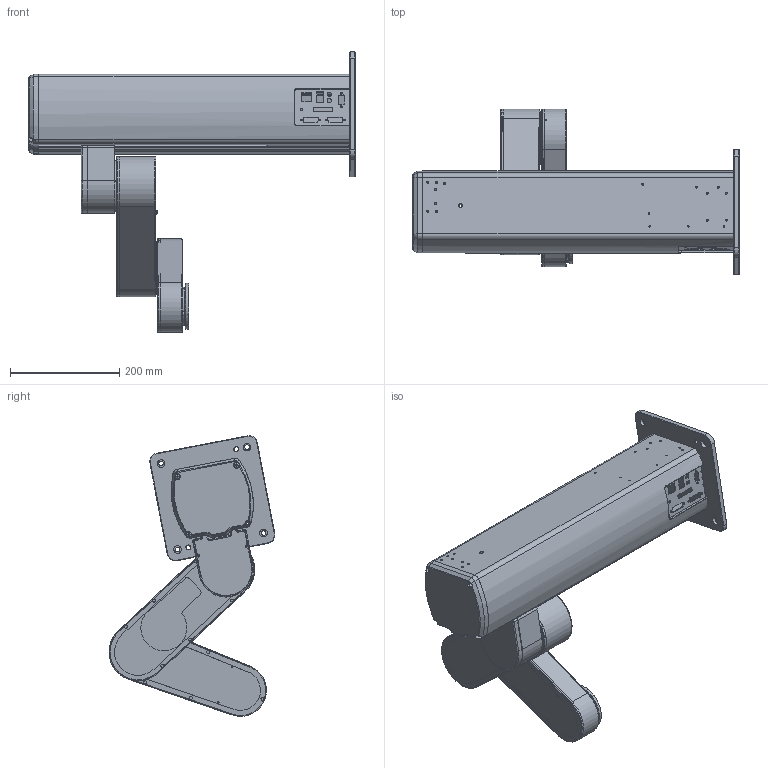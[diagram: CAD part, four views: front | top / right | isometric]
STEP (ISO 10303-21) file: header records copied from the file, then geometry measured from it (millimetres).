
FILE_DESCRIPTION(('CATIA V5 STEP Exchange'),'2;1');
FILE_NAME('F:\LYJ 工作文件\机械臂系列\Z-Arm 2140\PA上下同步带模块设计\V9.7双导轨(2)\9.7.4 20套改版\Z-Arm 2442 V1.1.0 简图\简图\Z-Arm 2442C0 V1.1.0.stp','2021-01-18T03:28:13+00:00',('none'),('none'),'CATIA Version 5 Release 20 GA (IN-10)','CATIA V5 STEP AP203','none');
FILE_SCHEMA(('CONFIG_CONTROL_DESIGN'));
Length unit declared in the file: millimetre
Products named in the file (7): 产品1; 产品5; LIANJIEBAN; 101-012-10-05; 101-012-10-03; 101-012-10-02; 101-012-10-01-02
Assembly tree (28 placements, depth 4):
  产品1
    产品5
      #66
      #6699
      #8352
      LIANJIEBAN
        #12253
        #15299
      #15865
      #17748  x3
      #18703
    101-012-10-05
      101-012-10-03
        #22463
        #24363
        #25405
        #26228
        #26911
      101-012-10-02
        #30294
        #32214
        #33572
        #34747
        #36186
    101-012-10-01-02
      #36656
      #39437
Bounding box: 596 x 303.2 x 513.04 mm (x, y, z)
Volume: 6898754.7 mm3; surface area: 1252021.5 mm2
Topology: 22 solids, 22 shells, 1472 faces, 3863 edges, 2464 vertices
Faces by surface type: cylinder 711, plane 479, cone 216, torus 36, extrusion 13, sphere 12, bspline 5
Entity records: 42180 total; most frequent: CARTESIAN_POINT 8618, ORIENTED_EDGE 7326, DIRECTION 5608, EDGE_CURVE 3663, AXIS2_PLACEMENT_3D 2678, VERTEX_POINT 2372, VECTOR 1869, LINE 1856
